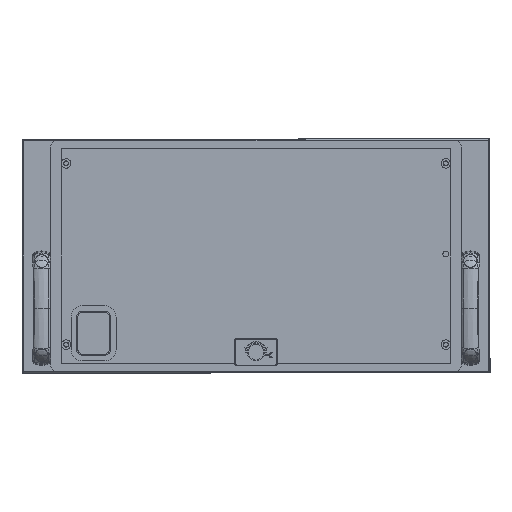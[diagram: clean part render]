
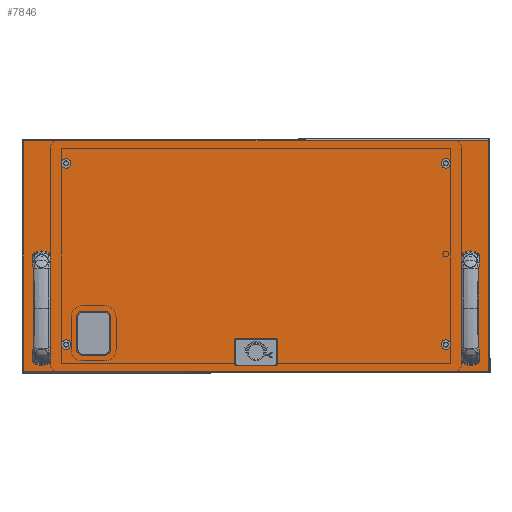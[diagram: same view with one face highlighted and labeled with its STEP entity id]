
A CAD part, front view. The second image highlights one B-rep face of the part: STEP entity #7846.
In plain terms, the highlighted planar face has unit normal (0, -1, 0) as drawn and (0, 0, 1) by its records, which use the part's own axes.
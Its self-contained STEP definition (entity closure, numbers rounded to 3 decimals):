
#5236=CARTESIAN_POINT(' ',(2.3,294.7,0.));
#5237=VERTEX_POINT(' ',#5236);
#5251=CARTESIAN_POINT(' ',(2.3,294.7,0.));
#5256=DIRECTION(' ',(1.,0.,0.));
#5261=VECTOR(' ',#5256,1.);
#5266=LINE('',#5251,#5261);
#5271=CARTESIAN_POINT(' ',(591.7,294.7,0.));
#5272=VERTEX_POINT(' ',#5271);
#5276=EDGE_CURVE(' ',#5237,#5272,#5266,.T.);
#6946=DIRECTION(' ',(-0.,-0.,1.));
#6951=CARTESIAN_POINT(' ',(591.7,2.3,0.));
#6956=DIRECTION(' ',(0.,1.,0.));
#6961=AXIS2_PLACEMENT_3D(' ',#6951,#6946,#6956);
#6966=PLANE('NONE',#6961);
#6971=CARTESIAN_POINT(' ',(591.7,294.7,0.));
#6976=DIRECTION(' ',(0.,-1.,0.));
#6981=VECTOR(' ',#6976,1.);
#6986=LINE('',#6971,#6981);
#6991=CARTESIAN_POINT(' ',(591.7,2.3,0.));
#6992=VERTEX_POINT(' ',#6991);
#6996=EDGE_CURVE(' ',#5272,#6992,#6986,.T.);
#7001=ORIENTED_EDGE(' ',*,*,#6996,.F.);
#7006=ORIENTED_EDGE(' ',*,*,#5276,.F.);
#7011=CARTESIAN_POINT(' ',(2.3,2.3,0.));
#7016=DIRECTION(' ',(0.,1.,0.));
#7021=VECTOR(' ',#7016,1.);
#7026=LINE('',#7011,#7021);
#7031=CARTESIAN_POINT(' ',(2.3,2.3,0.));
#7032=VERTEX_POINT(' ',#7031);
#7036=EDGE_CURVE(' ',#7032,#5237,#7026,.T.);
#7041=ORIENTED_EDGE(' ',*,*,#7036,.F.);
#7046=CARTESIAN_POINT(' ',(591.7,2.3,0.));
#7051=DIRECTION(' ',(-1.,0.,0.));
#7056=VECTOR(' ',#7051,1.);
#7061=LINE('',#7046,#7056);
#7066=EDGE_CURVE(' ',#6992,#7032,#7061,.T.);
#7071=ORIENTED_EDGE(' ',*,*,#7066,.F.);
#7076=EDGE_LOOP(' ',(#7001,#7006,#7041,#7071));
#7081=FACE_OUTER_BOUND(' ',#7076,.T.);
#7086=CARTESIAN_POINT(' ',(104.85,30.,0.));
#7091=DIRECTION(' ',(0.,-0.,1.));
#7096=DIRECTION(' ',(0.,-1.,0.));
#7101=AXIS2_PLACEMENT_3D(' ',#7086,#7091,#7096);
#7106=CIRCLE('',#7101,6.);
#7111=CARTESIAN_POINT(' ',(104.85,24.,0.));
#7112=VERTEX_POINT(' ',#7111);
#7116=CARTESIAN_POINT(' ',(110.85,30.,0.));
#7117=VERTEX_POINT(' ',#7116);
#7121=EDGE_CURVE(' ',#7112,#7117,#7106,.T.);
#7126=ORIENTED_EDGE(' ',*,*,#7121,.F.);
#7131=CARTESIAN_POINT(' ',(76.85,24.,0.));
#7136=DIRECTION(' ',(1.,0.,0.));
#7141=VECTOR(' ',#7136,1.);
#7146=LINE('',#7131,#7141);
#7151=CARTESIAN_POINT(' ',(76.85,24.,0.));
#7152=VERTEX_POINT(' ',#7151);
#7156=EDGE_CURVE(' ',#7152,#7112,#7146,.T.);
#7161=ORIENTED_EDGE(' ',*,*,#7156,.F.);
#7166=CARTESIAN_POINT(' ',(76.85,30.,0.));
#7171=DIRECTION(' ',(-0.,-0.,1.));
#7176=DIRECTION(' ',(-1.,0.,0.));
#7181=AXIS2_PLACEMENT_3D(' ',#7166,#7171,#7176);
#7186=CIRCLE('',#7181,6.);
#7191=CARTESIAN_POINT(' ',(70.85,30.,0.));
#7192=VERTEX_POINT(' ',#7191);
#7196=EDGE_CURVE(' ',#7192,#7152,#7186,.T.);
#7201=ORIENTED_EDGE(' ',*,*,#7196,.F.);
#7206=CARTESIAN_POINT(' ',(70.85,71.,0.));
#7211=DIRECTION(' ',(0.,-1.,0.));
#7216=VECTOR(' ',#7211,1.);
#7221=LINE('',#7206,#7216);
#7226=CARTESIAN_POINT(' ',(70.85,71.,0.));
#7227=VERTEX_POINT(' ',#7226);
#7231=EDGE_CURVE(' ',#7227,#7192,#7221,.T.);
#7236=ORIENTED_EDGE(' ',*,*,#7231,.F.);
#7241=CARTESIAN_POINT(' ',(76.85,71.,0.));
#7246=DIRECTION(' ',(0.,0.,1.));
#7251=DIRECTION(' ',(0.,1.,0.));
#7256=AXIS2_PLACEMENT_3D(' ',#7241,#7246,#7251);
#7261=CIRCLE('',#7256,6.);
#7266=CARTESIAN_POINT(' ',(76.85,77.,0.));
#7267=VERTEX_POINT(' ',#7266);
#7271=EDGE_CURVE(' ',#7267,#7227,#7261,.T.);
#7276=ORIENTED_EDGE(' ',*,*,#7271,.F.);
#7281=CARTESIAN_POINT(' ',(104.85,77.,0.));
#7286=DIRECTION(' ',(-1.,0.,0.));
#7291=VECTOR(' ',#7286,1.);
#7296=LINE('',#7281,#7291);
#7301=CARTESIAN_POINT(' ',(104.85,77.,0.));
#7302=VERTEX_POINT(' ',#7301);
#7306=EDGE_CURVE(' ',#7302,#7267,#7296,.T.);
#7311=ORIENTED_EDGE(' ',*,*,#7306,.F.);
#7316=CARTESIAN_POINT(' ',(104.85,71.,0.));
#7321=DIRECTION(' ',(0.,0.,1.));
#7326=DIRECTION(' ',(1.,0.,0.));
#7331=AXIS2_PLACEMENT_3D(' ',#7316,#7321,#7326);
#7336=CIRCLE('',#7331,6.);
#7341=CARTESIAN_POINT(' ',(110.85,71.,0.));
#7342=VERTEX_POINT(' ',#7341);
#7346=EDGE_CURVE(' ',#7342,#7302,#7336,.T.);
#7351=ORIENTED_EDGE(' ',*,*,#7346,.F.);
#7356=CARTESIAN_POINT(' ',(110.85,30.,0.));
#7361=DIRECTION(' ',(0.,1.,0.));
#7366=VECTOR(' ',#7361,1.);
#7371=LINE('',#7356,#7366);
#7376=EDGE_CURVE(' ',#7117,#7342,#7371,.T.);
#7381=ORIENTED_EDGE(' ',*,*,#7376,.F.);
#7386=EDGE_LOOP(' ',(#7126,#7161,#7201,#7236,#7276,#7311,#7351,#7381));
#7391=FACE_BOUND(' ',#7386,.T.);
#7396=CARTESIAN_POINT(' ',(297.,26.5,0.));
#7401=DIRECTION(' ',(0.,-0.,1.));
#7406=DIRECTION(' ',(-1.,0.,0.));
#7411=AXIS2_PLACEMENT_3D(' ',#7396,#7401,#7406);
#7416=CIRCLE('',#7411,10.);
#7421=CARTESIAN_POINT(' ',(287.,26.5,0.));
#7422=VERTEX_POINT(' ',#7421);
#7426=CARTESIAN_POINT(' ',(307.,26.5,0.));
#7427=VERTEX_POINT(' ',#7426);
#7431=EDGE_CURVE(' ',#7422,#7427,#7416,.T.);
#7436=ORIENTED_EDGE(' ',*,*,#7431,.F.);
#7441=CARTESIAN_POINT(' ',(297.,26.5,0.));
#7446=DIRECTION(' ',(0.,0.,1.));
#7451=DIRECTION(' ',(1.,0.,0.));
#7456=AXIS2_PLACEMENT_3D(' ',#7441,#7446,#7451);
#7461=CIRCLE('',#7456,10.);
#7466=EDGE_CURVE(' ',#7427,#7422,#7461,.T.);
#7471=ORIENTED_EDGE(' ',*,*,#7466,.F.);
#7476=EDGE_LOOP(' ',(#7436,#7471));
#7481=FACE_BOUND(' ',#7476,.T.);
#7486=CARTESIAN_POINT(' ',(569.,23.5,0.));
#7491=DIRECTION(' ',(0.,0.,1.));
#7496=DIRECTION(' ',(0.,1.,0.));
#7501=AXIS2_PLACEMENT_3D(' ',#7486,#7491,#7496);
#7506=CIRCLE('',#7501,3.75);
#7511=CARTESIAN_POINT(' ',(569.,27.25,0.));
#7512=VERTEX_POINT(' ',#7511);
#7516=CARTESIAN_POINT(' ',(569.,19.75,0.));
#7517=VERTEX_POINT(' ',#7516);
#7521=EDGE_CURVE(' ',#7512,#7517,#7506,.T.);
#7526=ORIENTED_EDGE(' ',*,*,#7521,.F.);
#7531=CARTESIAN_POINT(' ',(569.,23.5,0.));
#7536=DIRECTION(' ',(0.,0.,1.));
#7541=DIRECTION(' ',(0.,-1.,0.));
#7546=AXIS2_PLACEMENT_3D(' ',#7531,#7536,#7541);
#7551=CIRCLE('',#7546,3.75);
#7556=EDGE_CURVE(' ',#7517,#7512,#7551,.T.);
#7561=ORIENTED_EDGE(' ',*,*,#7556,.F.);
#7566=EDGE_LOOP(' ',(#7526,#7561));
#7571=FACE_BOUND(' ',#7566,.T.);
#7576=CARTESIAN_POINT(' ',(25.,143.5,0.));
#7581=DIRECTION(' ',(0.,0.,1.));
#7586=DIRECTION(' ',(0.,1.,0.));
#7591=AXIS2_PLACEMENT_3D(' ',#7576,#7581,#7586);
#7596=CIRCLE('',#7591,3.75);
#7601=CARTESIAN_POINT(' ',(25.,147.25,0.));
#7602=VERTEX_POINT(' ',#7601);
#7606=CARTESIAN_POINT(' ',(25.,139.75,0.));
#7607=VERTEX_POINT(' ',#7606);
#7611=EDGE_CURVE(' ',#7602,#7607,#7596,.T.);
#7616=ORIENTED_EDGE(' ',*,*,#7611,.F.);
#7621=CARTESIAN_POINT(' ',(25.,143.5,0.));
#7626=DIRECTION(' ',(0.,0.,1.));
#7631=DIRECTION(' ',(0.,-1.,0.));
#7636=AXIS2_PLACEMENT_3D(' ',#7621,#7626,#7631);
#7641=CIRCLE('',#7636,3.75);
#7646=EDGE_CURVE(' ',#7607,#7602,#7641,.T.);
#7651=ORIENTED_EDGE(' ',*,*,#7646,.F.);
#7656=EDGE_LOOP(' ',(#7616,#7651));
#7661=FACE_BOUND(' ',#7656,.T.);
#7666=CARTESIAN_POINT(' ',(25.,23.5,0.));
#7671=DIRECTION(' ',(0.,0.,1.));
#7676=DIRECTION(' ',(0.,1.,0.));
#7681=AXIS2_PLACEMENT_3D(' ',#7666,#7671,#7676);
#7686=CIRCLE('',#7681,3.75);
#7691=CARTESIAN_POINT(' ',(25.,27.25,0.));
#7692=VERTEX_POINT(' ',#7691);
#7696=CARTESIAN_POINT(' ',(25.,19.75,0.));
#7697=VERTEX_POINT(' ',#7696);
#7701=EDGE_CURVE(' ',#7692,#7697,#7686,.T.);
#7706=ORIENTED_EDGE(' ',*,*,#7701,.F.);
#7711=CARTESIAN_POINT(' ',(25.,23.5,0.));
#7716=DIRECTION(' ',(0.,0.,1.));
#7721=DIRECTION(' ',(0.,-1.,0.));
#7726=AXIS2_PLACEMENT_3D(' ',#7711,#7716,#7721);
#7731=CIRCLE('',#7726,3.75);
#7736=EDGE_CURVE(' ',#7697,#7692,#7731,.T.);
#7741=ORIENTED_EDGE(' ',*,*,#7736,.F.);
#7746=EDGE_LOOP(' ',(#7706,#7741));
#7751=FACE_BOUND(' ',#7746,.T.);
#7756=CARTESIAN_POINT(' ',(569.,143.5,0.));
#7761=DIRECTION(' ',(0.,0.,1.));
#7766=DIRECTION(' ',(0.,1.,0.));
#7771=AXIS2_PLACEMENT_3D(' ',#7756,#7761,#7766);
#7776=CIRCLE('',#7771,3.75);
#7781=CARTESIAN_POINT(' ',(569.,147.25,0.));
#7782=VERTEX_POINT(' ',#7781);
#7786=CARTESIAN_POINT(' ',(569.,139.75,0.));
#7787=VERTEX_POINT(' ',#7786);
#7791=EDGE_CURVE(' ',#7782,#7787,#7776,.T.);
#7796=ORIENTED_EDGE(' ',*,*,#7791,.F.);
#7801=CARTESIAN_POINT(' ',(569.,143.5,0.));
#7806=DIRECTION(' ',(0.,0.,1.));
#7811=DIRECTION(' ',(0.,-1.,0.));
#7816=AXIS2_PLACEMENT_3D(' ',#7801,#7806,#7811);
#7821=CIRCLE('',#7816,3.75);
#7826=EDGE_CURVE(' ',#7787,#7782,#7821,.T.);
#7831=ORIENTED_EDGE(' ',*,*,#7826,.F.);
#7836=EDGE_LOOP(' ',(#7796,#7831));
#7841=FACE_BOUND(' ',#7836,.T.);
#7846=ADVANCED_FACE('NONE',(#7081,#7391,#7481,#7571,#7661,#7751,#7841),#6966,.T.);
